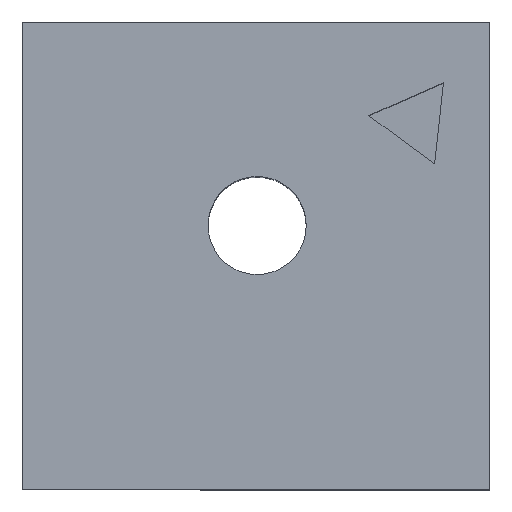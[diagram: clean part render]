
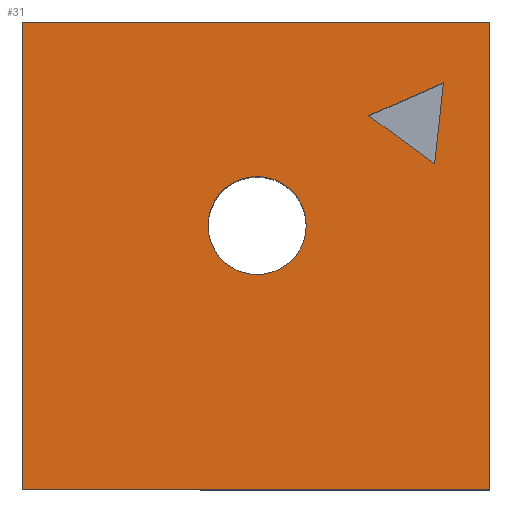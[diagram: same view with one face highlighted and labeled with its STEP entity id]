
A CAD part, top view. The second image highlights one B-rep face of the part: STEP entity #31.
In plain terms, the highlighted planar face has unit normal (0, 0, 1).
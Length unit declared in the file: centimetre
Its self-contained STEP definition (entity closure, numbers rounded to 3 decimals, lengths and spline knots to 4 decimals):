
#3 = VECTOR ( 'NONE', #279, 100. ) ;
#5 = EDGE_CURVE ( 'NONE', #919, #415, #366, .T. ) ;
#7 = EDGE_LOOP ( 'NONE', ( #890, #135, #904, #596 ) ) ;
#16 = CARTESIAN_POINT ( 'NONE',  ( 1000., 1000., 1000. ) ) ;
#30 = CARTESIAN_POINT ( 'NONE',  ( 607.47, 564.5459, 1000. ) ) ;
#31 = ADVANCED_FACE ( 'NONE', ( #720, #510, #646 ), #87, .T. ) ;
#42 = VERTEX_POINT ( 'NONE', #152 ) ;
#66 = DIRECTION ( 'NONE',  ( 0., 0., -1. ) ) ;
#69 = ORIENTED_EDGE ( 'NONE', *, *, #384, .F. ) ;
#77 = CARTESIAN_POINT ( 'NONE',  ( 741.4242, 799.6313, 1000. ) ) ;
#84 = DIRECTION ( 'NONE',  ( 0., 0., -1. ) ) ;
#87 = PLANE ( 'NONE',  #349 ) ;
#93 = CARTESIAN_POINT ( 'NONE',  ( 1000., 0., 1000. ) ) ;
#121 = DIRECTION ( 'NONE',  ( 1., 0., 0. ) ) ;
#135 = ORIENTED_EDGE ( 'NONE', *, *, #877, .T. ) ;
#140 = LINE ( 'NONE', #705, #3 ) ;
#150 = DIRECTION ( 'NONE',  ( 0.807, -0.591, 0. ) ) ;
#152 = CARTESIAN_POINT ( 'NONE',  ( 901.1914, 870.0025, 1000. ) ) ;
#169 = CARTESIAN_POINT ( 'NONE',  ( 741.4242, 799.6313, 1000. ) ) ;
#179 = VERTEX_POINT ( 'NONE', #420 ) ;
#183 = AXIS2_PLACEMENT_3D ( 'NONE', #235, #84, #514 ) ;
#207 = EDGE_LOOP ( 'NONE', ( #475, #346 ) ) ;
#234 = VECTOR ( 'NONE', #381, 100. ) ;
#235 = CARTESIAN_POINT ( 'NONE',  ( 502.5017, 564.5459, 1000. ) ) ;
#239 = CARTESIAN_POINT ( 'NONE',  ( 0., 0., 1000. ) ) ;
#256 = VECTOR ( 'NONE', #574, 100. ) ;
#268 = LINE ( 'NONE', #471, #453 ) ;
#279 = DIRECTION ( 'NONE',  ( -0.915, -0.403, 0. ) ) ;
#283 = DIRECTION ( 'NONE',  ( -1., 0., 0. ) ) ;
#322 = VERTEX_POINT ( 'NONE', #553 ) ;
#330 = EDGE_LOOP ( 'NONE', ( #766, #916, #69 ) ) ;
#346 = ORIENTED_EDGE ( 'NONE', *, *, #5, .T. ) ;
#349 = AXIS2_PLACEMENT_3D ( 'NONE', #239, #861, #856 ) ;
#358 = VERTEX_POINT ( 'NONE', #845 ) ;
#366 = CIRCLE ( 'NONE', #183, 104.9683 ) ;
#381 = DIRECTION ( 'NONE',  ( 0., -1., 0. ) ) ;
#384 = EDGE_CURVE ( 'NONE', #42, #397, #140, .T. ) ;
#388 = CARTESIAN_POINT ( 'NONE',  ( 882.2511, 696.4545, 1000. ) ) ;
#397 = VERTEX_POINT ( 'NONE', #77 ) ;
#415 = VERTEX_POINT ( 'NONE', #835 ) ;
#420 = CARTESIAN_POINT ( 'NONE',  ( 0., 0., 1000. ) ) ;
#448 = LINE ( 'NONE', #854, #234 ) ;
#453 = VECTOR ( 'NONE', #121, 100. ) ;
#471 = CARTESIAN_POINT ( 'NONE',  ( 0., 0., 1000. ) ) ;
#475 = ORIENTED_EDGE ( 'NONE', *, *, #484, .T. ) ;
#484 = EDGE_CURVE ( 'NONE', #415, #919, #811, .T. ) ;
#510 = FACE_BOUND ( 'NONE', #330, .T. ) ;
#514 = DIRECTION ( 'NONE',  ( -1., 0., 0. ) ) ;
#523 = LINE ( 'NONE', #388, #533 ) ;
#533 = VECTOR ( 'NONE', #587, 100. ) ;
#536 = EDGE_CURVE ( 'NONE', #564, #322, #657, .T. ) ;
#542 = VERTEX_POINT ( 'NONE', #781 ) ;
#548 = VECTOR ( 'NONE', #653, 100. ) ;
#553 = CARTESIAN_POINT ( 'NONE',  ( 1000., 1000., 1000. ) ) ;
#563 = EDGE_CURVE ( 'NONE', #322, #542, #867, .T. ) ;
#564 = VERTEX_POINT ( 'NONE', #93 ) ;
#574 = DIRECTION ( 'NONE',  ( -1., 0., 0. ) ) ;
#587 = DIRECTION ( 'NONE',  ( 0.108, 0.994, 0. ) ) ;
#589 = EDGE_CURVE ( 'NONE', #397, #358, #714, .T. ) ;
#596 = ORIENTED_EDGE ( 'NONE', *, *, #563, .T. ) ;
#635 = EDGE_CURVE ( 'NONE', #542, #179, #448, .T. ) ;
#646 = FACE_OUTER_BOUND ( 'NONE', #7, .T. ) ;
#653 = DIRECTION ( 'NONE',  ( 0., 1., 0. ) ) ;
#657 = LINE ( 'NONE', #16, #548 ) ;
#695 = CARTESIAN_POINT ( 'NONE',  ( 502.5017, 564.5459, 1000. ) ) ;
#705 = CARTESIAN_POINT ( 'NONE',  ( 901.1914, 870.0025, 1000. ) ) ;
#714 = LINE ( 'NONE', #169, #786 ) ;
#720 = FACE_BOUND ( 'NONE', #207, .T. ) ;
#766 = ORIENTED_EDGE ( 'NONE', *, *, #798, .F. ) ;
#781 = CARTESIAN_POINT ( 'NONE',  ( 0., 1000., 1000. ) ) ;
#786 = VECTOR ( 'NONE', #150, 100. ) ;
#798 = EDGE_CURVE ( 'NONE', #358, #42, #523, .T. ) ;
#811 = CIRCLE ( 'NONE', #885, 104.9683 ) ;
#835 = CARTESIAN_POINT ( 'NONE',  ( 397.5334, 564.5459, 1000. ) ) ;
#845 = CARTESIAN_POINT ( 'NONE',  ( 882.2511, 696.4545, 1000. ) ) ;
#850 = CARTESIAN_POINT ( 'NONE',  ( 0., 1000., 1000. ) ) ;
#854 = CARTESIAN_POINT ( 'NONE',  ( 0., 1000., 1000. ) ) ;
#856 = DIRECTION ( 'NONE',  ( 1., 0., 0. ) ) ;
#861 = DIRECTION ( 'NONE',  ( 0., 0., 1. ) ) ;
#867 = LINE ( 'NONE', #850, #256 ) ;
#877 = EDGE_CURVE ( 'NONE', #179, #564, #268, .T. ) ;
#885 = AXIS2_PLACEMENT_3D ( 'NONE', #695, #66, #283 ) ;
#890 = ORIENTED_EDGE ( 'NONE', *, *, #635, .T. ) ;
#904 = ORIENTED_EDGE ( 'NONE', *, *, #536, .T. ) ;
#916 = ORIENTED_EDGE ( 'NONE', *, *, #589, .F. ) ;
#919 = VERTEX_POINT ( 'NONE', #30 ) ;
